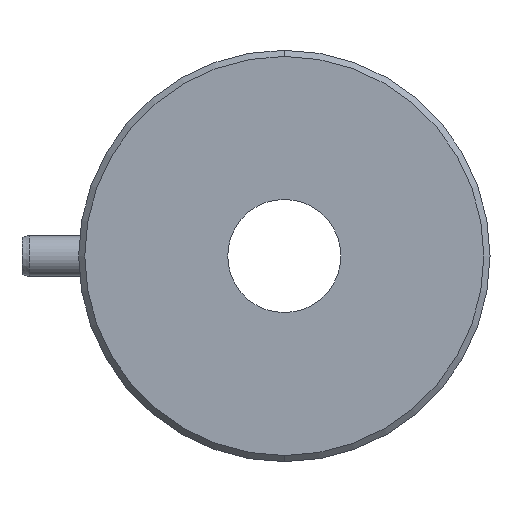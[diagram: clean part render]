
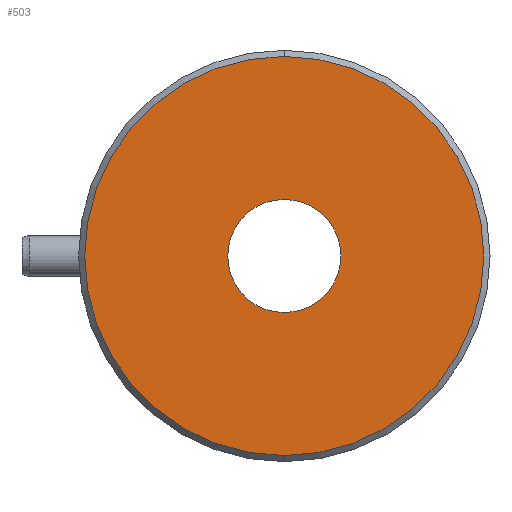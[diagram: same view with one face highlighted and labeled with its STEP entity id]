
A CAD part, front view. The second image highlights one B-rep face of the part: STEP entity #503.
In plain terms, the highlighted planar face has unit normal (0, -1, 0).
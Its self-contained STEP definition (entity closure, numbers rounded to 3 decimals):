
#424 = EDGE_CURVE ( 'NONE', #6474, #6502, #1711, .T. ) ;
#503 = ADVANCED_FACE ( 'NONE', ( #3565, #3574 ), #3608, .T. ) ;
#579 = EDGE_CURVE ( 'NONE', #6442, #6475, #1756, .T. ) ;
#639 = EDGE_CURVE ( 'NONE', #6502, #6474, #5929, .T. ) ;
#668 = EDGE_CURVE ( 'NONE', #6475, #6442, #5986, .T. ) ;
#1711 = CIRCLE ( 'NONE', #1714, 9.7 ) ;
#1714 = AXIS2_PLACEMENT_3D ( 'NONE', #5201, #5224, #5207 ) ;
#1756 = CIRCLE ( 'NONE', #1767, 2.75 ) ;
#1767 = AXIS2_PLACEMENT_3D ( 'NONE', #2843, #2870, #2844 ) ;
#1804 = AXIS2_PLACEMENT_3D ( 'NONE', #3583, #3585, #3573 ) ;
#2141 = ORIENTED_EDGE ( 'NONE', *, *, #668, .T. ) ;
#2148 = ORIENTED_EDGE ( 'NONE', *, *, #579, .T. ) ;
#2843 = CARTESIAN_POINT ( 'NONE',  ( 0., 0., 0. ) ) ;
#2844 = DIRECTION ( 'NONE',  ( 0., 0., 1. ) ) ;
#2870 = DIRECTION ( 'NONE',  ( 0., 1., 0. ) ) ;
#3082 = DIRECTION ( 'NONE',  ( 0., -1., 0. ) ) ;
#3101 = CARTESIAN_POINT ( 'NONE',  ( 0., 0., 0. ) ) ;
#3109 = DIRECTION ( 'NONE',  ( 0., 0., -1. ) ) ;
#3196 = CARTESIAN_POINT ( 'NONE',  ( 0., 0., 0. ) ) ;
#3197 = DIRECTION ( 'NONE',  ( 0., 1., 0. ) ) ;
#3208 = DIRECTION ( 'NONE',  ( 0., 0., 1. ) ) ;
#3565 = FACE_OUTER_BOUND ( 'NONE', #6639, .T. ) ;
#3573 = DIRECTION ( 'NONE',  ( 0., 0., -1. ) ) ;
#3574 = FACE_BOUND ( 'NONE', #6654, .T. ) ;
#3583 = CARTESIAN_POINT ( 'NONE',  ( -2.75, 0., 0. ) ) ;
#3585 = DIRECTION ( 'NONE',  ( 0., -1., 0. ) ) ;
#3608 = PLANE ( 'NONE',  #1804 ) ;
#3686 = CARTESIAN_POINT ( 'NONE',  ( 0., 0., -2.75 ) ) ;
#3714 = CARTESIAN_POINT ( 'NONE',  ( 0., 0., 9.7 ) ) ;
#3734 = CARTESIAN_POINT ( 'NONE',  ( 0., 0., -9.7 ) ) ;
#3735 = CARTESIAN_POINT ( 'NONE',  ( 0., 0., 2.75 ) ) ;
#5201 = CARTESIAN_POINT ( 'NONE',  ( 0., 0., 0. ) ) ;
#5207 = DIRECTION ( 'NONE',  ( 0., 0., -1. ) ) ;
#5224 = DIRECTION ( 'NONE',  ( 0., -1., 0. ) ) ;
#5929 = CIRCLE ( 'NONE', #5950, 9.7 ) ;
#5950 = AXIS2_PLACEMENT_3D ( 'NONE', #3101, #3082, #3109 ) ;
#5979 = AXIS2_PLACEMENT_3D ( 'NONE', #3196, #3197, #3208 ) ;
#5986 = CIRCLE ( 'NONE', #5979, 2.75 ) ;
#6273 = ORIENTED_EDGE ( 'NONE', *, *, #639, .T. ) ;
#6293 = ORIENTED_EDGE ( 'NONE', *, *, #424, .T. ) ;
#6442 = VERTEX_POINT ( 'NONE', #3686 ) ;
#6474 = VERTEX_POINT ( 'NONE', #3734 ) ;
#6475 = VERTEX_POINT ( 'NONE', #3735 ) ;
#6502 = VERTEX_POINT ( 'NONE', #3714 ) ;
#6639 = EDGE_LOOP ( 'NONE', ( #6273, #6293 ) ) ;
#6654 = EDGE_LOOP ( 'NONE', ( #2141, #2148 ) ) ;
